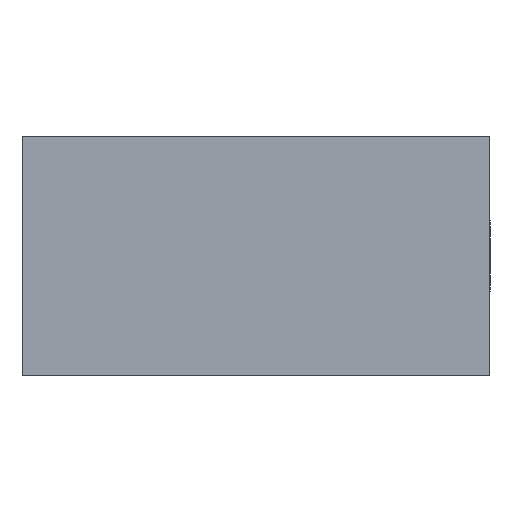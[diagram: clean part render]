
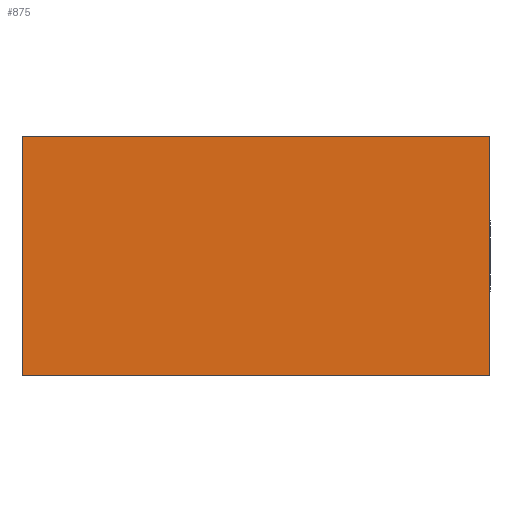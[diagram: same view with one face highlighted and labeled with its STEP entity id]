
A CAD part, front view. The second image highlights one B-rep face of the part: STEP entity #875.
In plain terms, the highlighted planar face has unit normal (0, -1, 0).
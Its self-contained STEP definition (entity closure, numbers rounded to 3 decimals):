
#27 = DIRECTION ( 'NONE',  ( 0., 0., 1. ) ) ;
#41 = LINE ( 'NONE', #183, #579 ) ;
#60 = CARTESIAN_POINT ( 'NONE',  ( -22., -7.5, -10. ) ) ;
#65 = VERTEX_POINT ( 'NONE', #803 ) ;
#79 = EDGE_CURVE ( 'NONE', #169, #154, #865, .T. ) ;
#86 = PLANE ( 'NONE',  #794 ) ;
#107 = CARTESIAN_POINT ( 'NONE',  ( -22., -7.5, 10. ) ) ;
#109 = ORIENTED_EDGE ( 'NONE', *, *, #508, .F. ) ;
#113 = EDGE_LOOP ( 'NONE', ( #127, #636, #109, #909 ) ) ;
#127 = ORIENTED_EDGE ( 'NONE', *, *, #808, .T. ) ;
#154 = VERTEX_POINT ( 'NONE', #761 ) ;
#169 = VERTEX_POINT ( 'NONE', #60 ) ;
#176 = VECTOR ( 'NONE', #892, 1000. ) ;
#183 = CARTESIAN_POINT ( 'NONE',  ( -9., -7.5, 10. ) ) ;
#222 = VECTOR ( 'NONE', #235, 1000. ) ;
#235 = DIRECTION ( 'NONE',  ( 1., 0., 0. ) ) ;
#369 = CARTESIAN_POINT ( 'NONE',  ( -9., -7.5, 10. ) ) ;
#455 = CARTESIAN_POINT ( 'NONE',  ( 17., -7.5, -10. ) ) ;
#494 = VERTEX_POINT ( 'NONE', #455 ) ;
#508 = EDGE_CURVE ( 'NONE', #154, #65, #41, .T. ) ;
#528 = CARTESIAN_POINT ( 'NONE',  ( -9., -7.5, -10. ) ) ;
#561 = EDGE_CURVE ( 'NONE', #65, #494, #836, .T. ) ;
#579 = VECTOR ( 'NONE', #671, 1000. ) ;
#611 = CARTESIAN_POINT ( 'NONE',  ( 17., -7.5, 10. ) ) ;
#636 = ORIENTED_EDGE ( 'NONE', *, *, #561, .F. ) ;
#650 = DIRECTION ( 'NONE',  ( 0., 1., 0. ) ) ;
#671 = DIRECTION ( 'NONE',  ( 1., 0., 0. ) ) ;
#719 = FACE_OUTER_BOUND ( 'NONE', #113, .T. ) ;
#741 = DIRECTION ( 'NONE',  ( 0., 0., 1. ) ) ;
#761 = CARTESIAN_POINT ( 'NONE',  ( -22., -7.5, 10. ) ) ;
#794 = AXIS2_PLACEMENT_3D ( 'NONE', #369, #650, #27 ) ;
#803 = CARTESIAN_POINT ( 'NONE',  ( 17., -7.5, 10. ) ) ;
#805 = LINE ( 'NONE', #528, #222 ) ;
#808 = EDGE_CURVE ( 'NONE', #169, #494, #805, .T. ) ;
#809 = VECTOR ( 'NONE', #741, 1000. ) ;
#836 = LINE ( 'NONE', #611, #176 ) ;
#865 = LINE ( 'NONE', #107, #809 ) ;
#875 = ADVANCED_FACE ( 'NONE', ( #719 ), #86, .F. ) ;
#892 = DIRECTION ( 'NONE',  ( 0., 0., -1. ) ) ;
#909 = ORIENTED_EDGE ( 'NONE', *, *, #79, .F. ) ;
